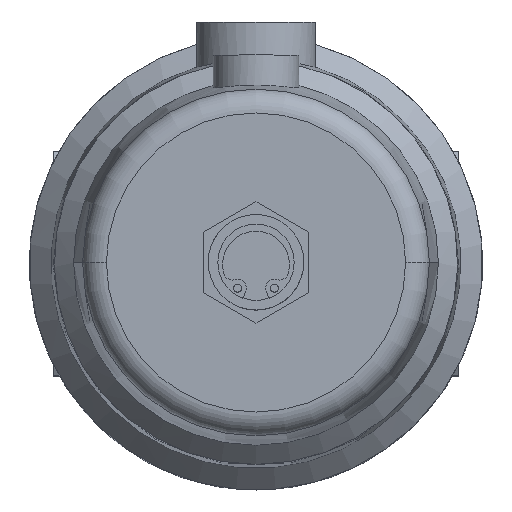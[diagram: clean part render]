
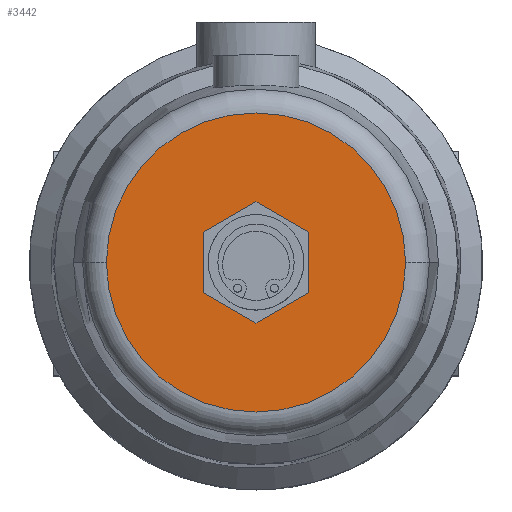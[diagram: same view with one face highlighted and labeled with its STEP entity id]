
A CAD part, top view. The second image highlights one B-rep face of the part: STEP entity #3442.
In plain terms, the highlighted planar face has unit normal (0, 0, 1).
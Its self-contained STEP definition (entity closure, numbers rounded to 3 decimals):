
#1227=CARTESIAN_POINT('',(0.,0.,170.));
#1228=DIRECTION('',(0.,0.,1.));
#1229=DIRECTION('',(-1.,0.,0.));
#1230=AXIS2_PLACEMENT_3D('',#1227,#1228,#1229);
#1232=CARTESIAN_POINT('',(0.,0.,170.));
#1233=DIRECTION('',(0.,0.,1.));
#1234=DIRECTION('',(1.,0.,0.));
#1235=AXIS2_PLACEMENT_3D('',#1232,#1233,#1234);
#1237=CARTESIAN_POINT('',(0.,0.,170.));
#1238=DIRECTION('',(0.,0.,1.));
#1239=DIRECTION('',(0.,1.,0.));
#1240=AXIS2_PLACEMENT_3D('',#1237,#1238,#1239);
#1242=CARTESIAN_POINT('',(0.,0.,170.));
#1243=DIRECTION('',(0.,0.,1.));
#1244=DIRECTION('',(0.,-1.,0.));
#1245=AXIS2_PLACEMENT_3D('',#1242,#1243,#1244);
#1702=CARTESIAN_POINT('',(-31.335,0.,170.));
#1703=CARTESIAN_POINT('',(31.335,0.,170.));
#1704=VERTEX_POINT('',#1702);
#1705=VERTEX_POINT('',#1703);
#1924=CARTESIAN_POINT('',(0.,10.5,170.));
#1925=CARTESIAN_POINT('',(0.,-10.5,170.));
#1926=VERTEX_POINT('',#1924);
#1927=VERTEX_POINT('',#1925);
#3426=CARTESIAN_POINT('',(0.,0.,170.));
#3427=DIRECTION('',(0.,0.,-1.));
#3428=DIRECTION('',(1.,0.,0.));
#3429=AXIS2_PLACEMENT_3D('',#3426,#3427,#3428);
#3430=PLANE('',#3429);
#3431=ORIENTED_EDGE('',*,*,#3416,.F.);
#3433=ORIENTED_EDGE('',*,*,#3432,.F.);
#3434=EDGE_LOOP('',(#3431,#3433));
#3435=FACE_OUTER_BOUND('',#3434,.F.);
#3437=ORIENTED_EDGE('',*,*,#3436,.T.);
#3439=ORIENTED_EDGE('',*,*,#3438,.T.);
#3440=EDGE_LOOP('',(#3437,#3439));
#3441=FACE_BOUND('',#3440,.F.);
#3442=ADVANCED_FACE('',(#3435,#3441),#3430,.F.);
#1231=CIRCLE('',#1230,31.335);
#1236=CIRCLE('',#1235,31.335);
#1241=CIRCLE('',#1240,10.5);
#1246=CIRCLE('',#1245,10.5);
#3416=EDGE_CURVE('',#1704,#1705,#1231,.T.);
#3432=EDGE_CURVE('',#1705,#1704,#1236,.T.);
#3436=EDGE_CURVE('',#1926,#1927,#1241,.T.);
#3438=EDGE_CURVE('',#1927,#1926,#1246,.T.);
